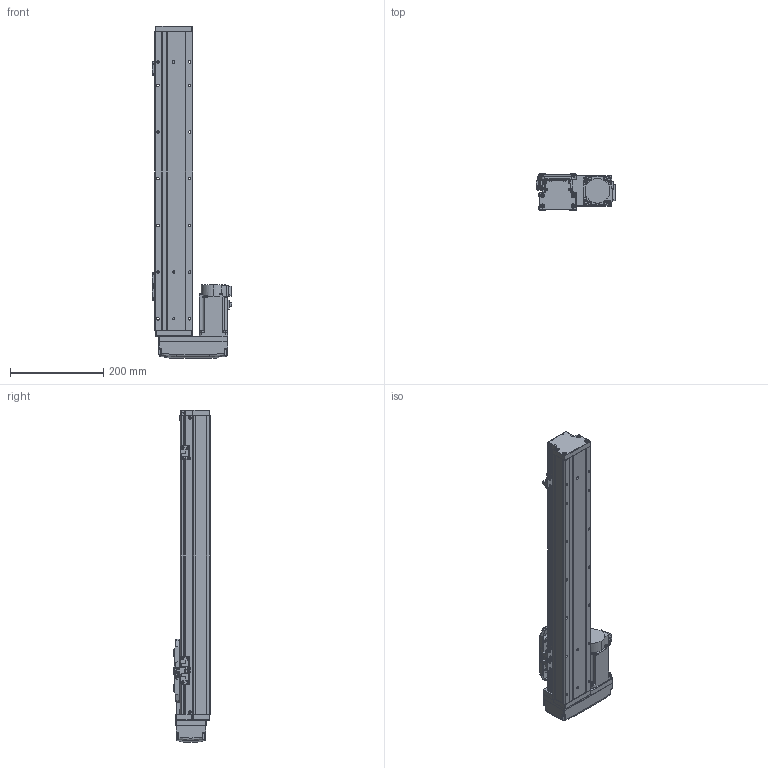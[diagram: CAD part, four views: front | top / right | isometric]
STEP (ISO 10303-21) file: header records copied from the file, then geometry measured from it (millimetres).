
FILE_DESCRIPTION (( 'STEP AP203' ), '1' );
FILE_NAME ('GTH8-450-BR-M20-C4.step', '2022-09-23T01:10:14', ( '微软用户' ), ( '微软中国' ), 'SwSTEP 2.0', 'SolidWorks 2020', '' );
FILE_SCHEMA (( 'CONFIG_CONTROL_DESIGN' ));
Length unit declared in the file: millimetre
Products named in the file (18): GTH80-006; GTH50-024; GTH8-450-BR-M20-C4; GTH80-013; GTH50-023; GBT 70.3-M3℅6; GBT96.1-2002 3×0.8; GTH80-022; BTH-M3X5X6; GTH80-001_450; GBT 70.1-M3℅6; hg-kn43j_-s100_; GTH80-003; GBT 70.1-M4×16; CTHA86-015-1_CTHA86-015-2; GTH80-004; GTH80-028; CTHA86-033_M40B
Assembly tree (57 placements, depth 2):
  GTH8-450-BR-M20-C4
    GTH80-001_450
    GTH80-003
    GTH80-004
    GTH80-006
    GTH80-013
    GBT 70.3-M3℅6  x4
    GTH80-022
    GBT 70.1-M3℅6  x14
    GBT 70.1-M4×16  x8
    GTH80-028  x2
    GTH50-024  x3
    GTH50-023  x3
    GBT96.1-2002 3×0.8  x6
    BTH-M3X5X6  x8
    hg-kn43j_-s100_
    CTHA86-015-1_CTHA86-015-2
    CTHA86-033_M40B
Bounding box: 169.7 x 78 x 711 mm (x, y, z)
Volume: 3761191.3 mm3; surface area: 413409.2 mm2
Topology: 59 solids, 59 shells, 2236 faces, 5163 edges, 3163 vertices
Faces by surface type: plane 1187, cylinder 607, cone 260, torus 166, bspline 8, sphere 8
Entity records: 40774 total; most frequent: CARTESIAN_POINT 7169, DIRECTION 6621, ORIENTED_EDGE 6144, EDGE_CURVE 3072, AXIS2_PLACEMENT_3D 2313, LINE 1995, VECTOR 1995, VERTEX_POINT 1938
